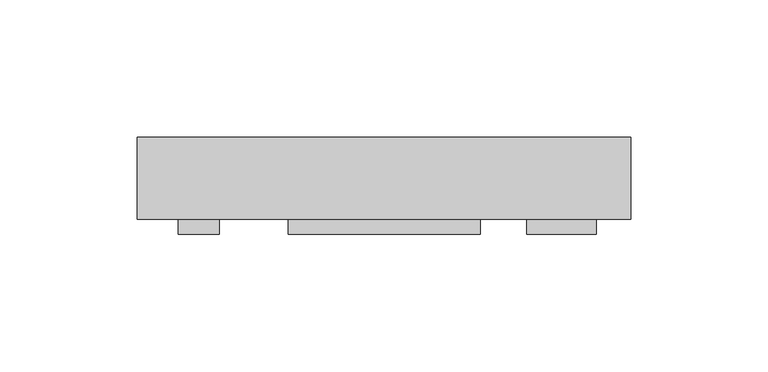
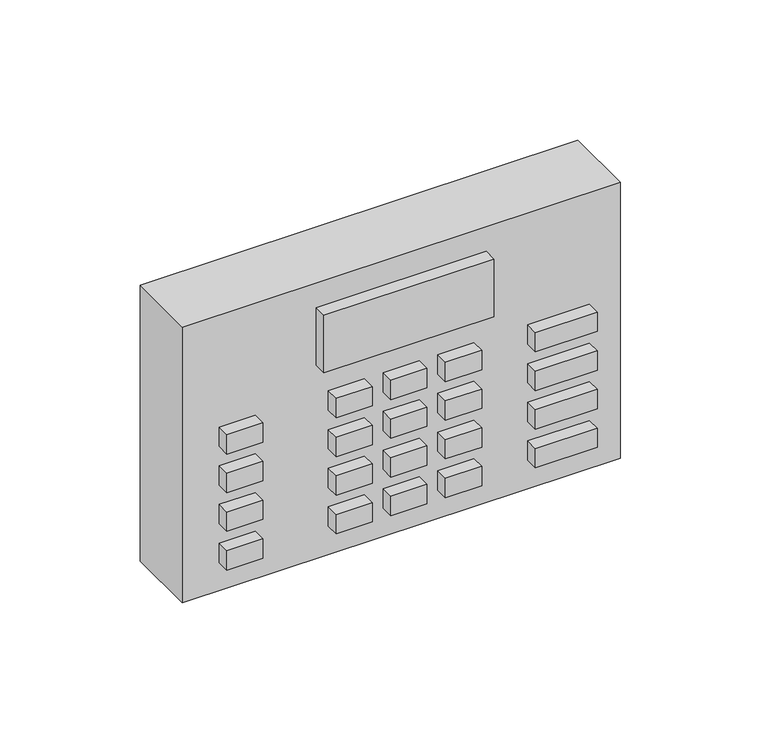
"""IFC4 building model written with IfcOpenShell, lengths in millimetres: alarm geometry, AI_Incendie_Système de sécurité incendie : Système de sécurité incendie."""

from ifc_helpers import new_model, si_unit, frame, origin, origin_with_axes, place, context, project, spatial, polyline, outline, extrude, source, transform, mapped, element, save


def alarm_a2f5a035(model_context):
    return source(origin(), model_context, "Body", "SweptSolid", [
        extrude(outline(polyline([(29.8894575, -20.4536583), (15.0572587, -20.4536583), (15.0572587, -15.0), (29.8894575, -15.0), (29.8894575, -20.4536583)])), frame((0.0, 0.0, 12.3339199), z_axis=(0.0, 0.0, 1.0), x_axis=(1.0, 0.0, 0.0)), (0.0, 0.0, 1.0), 8.4117561),
        extrude(outline(polyline([(29.8894575, -20.4536583), (15.0572587, -20.4536583), (15.0572587, -15.0), (29.8894575, -15.0), (29.8894575, -20.4536583)])), frame((0.0, 0.0, 29.1574322), z_axis=(0.0, 0.0, 1.0), x_axis=(1.0, 0.0, 0.0)), (0.0, 0.0, 1.0), 8.4117561),
        extrude(outline(polyline([(29.8894575, -20.4536583), (15.0572587, -20.4536583), (15.0572587, -15.0), (29.8894575, -15.0), (29.8894575, -20.4536583)])), frame((0.0, 0.0, 45.9809444), z_axis=(0.0, 0.0, 1.0), x_axis=(1.0, 0.0, 0.0)), (0.0, 0.0, 1.0), 8.4117561),
        extrude(outline(polyline([(29.8894575, -20.4536583), (15.0572587, -20.4536583), (15.0572587, -15.0), (29.8894575, -15.0), (29.8894575, -20.4536583)])), frame((0.0, 0.0, 62.8044567), z_axis=(0.0, 0.0, 1.0), x_axis=(1.0, 0.0, 0.0)), (0.0, 0.0, 1.0), 8.4117561),
        extrude(outline(polyline([(7.3894575, -20.4536583), (-7.4427413, -20.4536583), (-7.4427413, -15.0), (7.3894575, -15.0), (7.3894575, -20.4536583)])), frame((0.0, 0.0, 12.3339199), z_axis=(0.0, 0.0, 1.0), x_axis=(1.0, 0.0, 0.0)), (0.0, 0.0, 1.0), 8.4117561),
        extrude(outline(polyline([(7.3894575, -20.4536583), (-7.4427413, -20.4536583), (-7.4427413, -15.0), (7.3894575, -15.0), (7.3894575, -20.4536583)])), frame((0.0, 0.0, 29.1574322), z_axis=(0.0, 0.0, 1.0), x_axis=(1.0, 0.0, 0.0)), (0.0, 0.0, 1.0), 8.4117561),
        extrude(outline(polyline([(7.3894575, -20.4536583), (-7.4427413, -20.4536583), (-7.4427413, -15.0), (7.3894575, -15.0), (7.3894575, -20.4536583)])), frame((0.0, 0.0, 45.9809444), z_axis=(0.0, 0.0, 1.0), x_axis=(1.0, 0.0, 0.0)), (0.0, 0.0, 1.0), 8.4117561),
        extrude(outline(polyline([(7.3894575, -20.4536583), (-7.4427413, -20.4536583), (-7.4427413, -15.0), (7.3894575, -15.0), (7.3894575, -20.4536583)])), frame((0.0, 0.0, 62.8044567), z_axis=(0.0, 0.0, 1.0), x_axis=(1.0, 0.0, 0.0)), (0.0, 0.0, 1.0), 8.4117561),
        extrude(outline(polyline([(-15.1105425, -20.4536583), (-29.9427413, -20.4536583), (-29.9427413, -15.0), (-15.1105425, -15.0), (-15.1105425, -20.4536583)])), frame((0.0, 0.0, 12.3339199), z_axis=(0.0, 0.0, 1.0), x_axis=(1.0, 0.0, 0.0)), (0.0, 0.0, 1.0), 8.4117561),
        extrude(outline(polyline([(-15.1105425, -20.4536583), (-29.9427413, -20.4536583), (-29.9427413, -15.0), (-15.1105425, -15.0), (-15.1105425, -20.4536583)])), frame((0.0, 0.0, 29.1574322), z_axis=(0.0, 0.0, 1.0), x_axis=(1.0, 0.0, 0.0)), (0.0, 0.0, 1.0), 8.4117561),
        extrude(outline(polyline([(-15.1105425, -20.4536583), (-29.9427413, -20.4536583), (-29.9427413, -15.0), (-15.1105425, -15.0), (-15.1105425, -20.4536583)])), frame((0.0, 0.0, 45.9809444), z_axis=(0.0, 0.0, 1.0), x_axis=(1.0, 0.0, 0.0)), (0.0, 0.0, 1.0), 8.4117561),
        extrude(outline(polyline([(-15.1105425, -20.4536583), (-29.9427413, -20.4536583), (-29.9427413, -15.0), (-15.1105425, -15.0), (-15.1105425, -20.4536583)])), frame((0.0, 0.0, 62.8044567), z_axis=(0.0, 0.0, 1.0), x_axis=(1.0, 0.0, 0.0)), (0.0, 0.0, 1.0), 8.4117561),
        extrude(outline(polyline([(77.3894575, -20.4536583), (52.0400303, -20.4536583), (52.0400303, -15.0), (77.3894575, -15.0), (77.3894575, -20.4536583)])), frame((0.0, 0.0, 12.3339199), z_axis=(0.0, 0.0, 1.0), x_axis=(1.0, 0.0, 0.0)), (0.0, 0.0, 1.0), 8.4117561),
        extrude(outline(polyline([(77.3894575, -20.4536583), (52.0400303, -20.4536583), (52.0400303, -15.0), (77.3894575, -15.0), (77.3894575, -20.4536583)])), frame((0.0, 0.0, 29.1574322), z_axis=(0.0, 0.0, 1.0), x_axis=(1.0, 0.0, 0.0)), (0.0, 0.0, 1.0), 8.4117561),
        extrude(outline(polyline([(77.3894575, -20.4536583), (52.0400303, -20.4536583), (52.0400303, -15.0), (77.3894575, -15.0), (77.3894575, -20.4536583)])), frame((0.0, 0.0, 45.9809444), z_axis=(0.0, 0.0, 1.0), x_axis=(1.0, 0.0, 0.0)), (0.0, 0.0, 1.0), 8.4117561),
        extrude(outline(polyline([(77.3894575, -20.4536583), (52.0400303, -20.4536583), (52.0400303, -15.0), (77.3894575, -15.0), (77.3894575, -20.4536583)])), frame((0.0, 0.0, 62.8044567), z_axis=(0.0, 0.0, 1.0), x_axis=(1.0, 0.0, 0.0)), (0.0, 0.0, 1.0), 8.4117561),
        extrude(outline(polyline([(-60.1105425, -20.4536583), (-74.9427413, -20.4536583), (-74.9427413, -15.0), (-60.1105425, -15.0), (-60.1105425, -20.4536583)])), frame((0.0, 0.0, 12.3339199), z_axis=(0.0, 0.0, 1.0), x_axis=(1.0, 0.0, 0.0)), (0.0, 0.0, 1.0), 8.4117561),
        extrude(outline(polyline([(-60.1105425, -20.4536583), (-74.9427413, -20.4536583), (-74.9427413, -15.0), (-60.1105425, -15.0), (-60.1105425, -20.4536583)])), frame((0.0, 0.0, 29.1574322), z_axis=(0.0, 0.0, 1.0), x_axis=(1.0, 0.0, 0.0)), (0.0, 0.0, 1.0), 8.4117561),
        extrude(outline(polyline([(-60.1105425, -20.4536583), (-74.9427413, -20.4536583), (-74.9427413, -15.0), (-60.1105425, -15.0), (-60.1105425, -20.4536583)])), frame((0.0, 0.0, 45.9809444), z_axis=(0.0, 0.0, 1.0), x_axis=(1.0, 0.0, 0.0)), (0.0, 0.0, 1.0), 8.4117561),
        extrude(outline(polyline([(-60.1105425, -20.4536583), (-74.9427413, -20.4536583), (-74.9427413, -15.0), (-60.1105425, -15.0), (-60.1105425, -20.4536583)])), frame((0.0, 0.0, 62.8044567), z_axis=(0.0, 0.0, 1.0), x_axis=(1.0, 0.0, 0.0)), (0.0, 0.0, 1.0), 8.4117561),
        extrude(outline(polyline([(35.0, -20.4536583), (-35.0, -20.4536583), (-35.0, -15.0), (35.0, -15.0), (35.0, -20.4536583)])), frame((0.0, 0.0, 84.1313068), z_axis=(0.0, 0.0, 1.0), x_axis=(1.0, 0.0, 0.0)), (0.0, 0.0, 1.0), 25.0),
        extrude(outline(polyline([(90.0, 15.0), (90.0, -15.0), (-90.0, -15.0), (-90.0, 15.0), (90.0, 15.0)])), origin_with_axes(), (0.0, 0.0, 1.0), 120.0),
    ])


if __name__ == "__main__":
    model = new_model("IFC4")
    model_context = context("Model", 3, world=origin())
    ifc_project = project(units=[si_unit("LENGTHUNIT", "METRE", prefix="MILLI")], contexts=[model_context])
    site = spatial("IfcSite", under=ifc_project)
    building = spatial("IfcBuilding", under=site)
    placement = place(None, origin())
    alarm_shape = alarm_a2f5a035(model_context)
    element("IfcAlarm", 1, ObjectType="AI_Incendie_Système de sécurité incendie : Système de sécurité incendie", at=placement, inside=building, context=model_context, shape_type="MappedRepresentation", body=[
        mapped(alarm_shape, transform((0.0, 0.0, 0.0), x_axis=(1.0, 0.0, 0.0), y_axis=(0.0, 1.0, 0.0), z_axis=(0.0, 0.0, 1.0))),
    ])
    save(model, "model.ifc")
